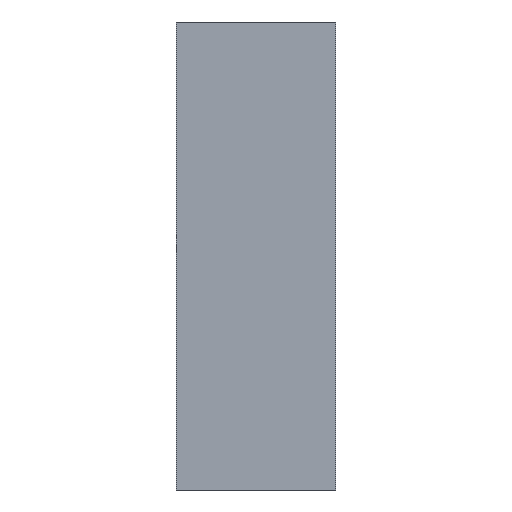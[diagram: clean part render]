
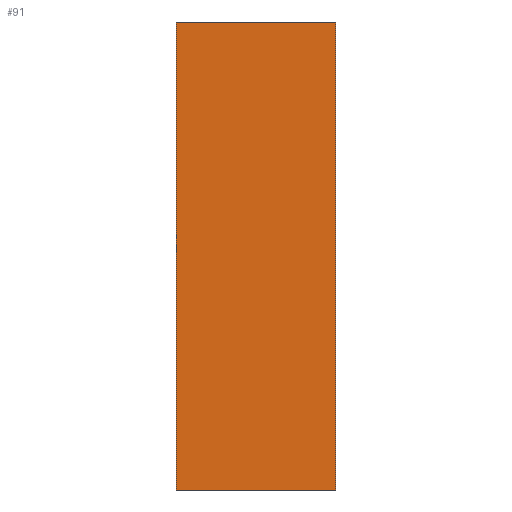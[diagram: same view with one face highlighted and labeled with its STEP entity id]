
A CAD part, front view. The second image highlights one B-rep face of the part: STEP entity #91.
In plain terms, the highlighted planar face has unit normal (0, -1, 0).
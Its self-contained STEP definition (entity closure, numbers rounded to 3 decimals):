
#21 = EDGE_CURVE('',#22,#24,#26,.T.);
#22 = VERTEX_POINT('',#23);
#23 = CARTESIAN_POINT('',(-24.6,-14.7,21.5));
#24 = VERTEX_POINT('',#25);
#25 = CARTESIAN_POINT('',(-24.6,-14.7,30.9));
#26 = LINE('',#27,#28);
#27 = CARTESIAN_POINT('',(-24.6,-14.7,21.5));
#28 = VECTOR('',#29,1.);
#29 = DIRECTION('',(0.,0.,1.));
#91 = ADVANCED_FACE('',(#92),#117,.F.);
#92 = FACE_BOUND('',#93,.F.);
#93 = EDGE_LOOP('',(#94,#102,#103,#111));
#94 = ORIENTED_EDGE('',*,*,#95,.F.);
#95 = EDGE_CURVE('',#22,#96,#98,.T.);
#96 = VERTEX_POINT('',#97);
#97 = CARTESIAN_POINT('',(-21.4,-14.7,21.5));
#98 = LINE('',#99,#100);
#99 = CARTESIAN_POINT('',(-24.6,-14.7,21.5));
#100 = VECTOR('',#101,1.);
#101 = DIRECTION('',(1.,0.,-0.));
#102 = ORIENTED_EDGE('',*,*,#21,.T.);
#103 = ORIENTED_EDGE('',*,*,#104,.T.);
#104 = EDGE_CURVE('',#24,#105,#107,.T.);
#105 = VERTEX_POINT('',#106);
#106 = CARTESIAN_POINT('',(-21.4,-14.7,30.9));
#107 = LINE('',#108,#109);
#108 = CARTESIAN_POINT('',(-24.6,-14.7,30.9));
#109 = VECTOR('',#110,1.);
#110 = DIRECTION('',(1.,0.,-0.));
#111 = ORIENTED_EDGE('',*,*,#112,.F.);
#112 = EDGE_CURVE('',#96,#105,#113,.T.);
#113 = LINE('',#114,#115);
#114 = CARTESIAN_POINT('',(-21.4,-14.7,21.5));
#115 = VECTOR('',#116,1.);
#116 = DIRECTION('',(0.,0.,1.));
#117 = PLANE('',#118);
#118 = AXIS2_PLACEMENT_3D('',#119,#120,#121);
#119 = CARTESIAN_POINT('',(-24.6,-14.7,21.5));
#120 = DIRECTION('',(-0.,1.,0.));
#121 = DIRECTION('',(0.,0.,1.));
